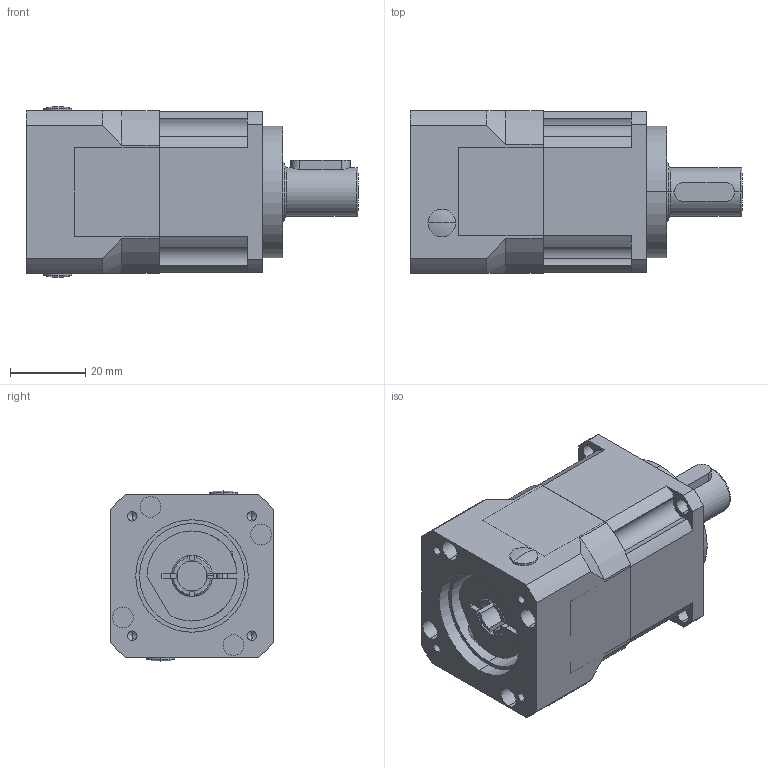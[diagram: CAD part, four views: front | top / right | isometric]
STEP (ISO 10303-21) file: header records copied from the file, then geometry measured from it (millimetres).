
FILE_DESCRIPTION (( 'STEP AP203' ), '1' );
FILE_NAME ('AB042-L1-8-30-45-M3.STEP', '2024-04-30T05:37:05', ( '' ), ( '' ), 'SwSTEP 2.0', 'SolidWorks 2015', '' );
FILE_SCHEMA (( 'CONFIG_CONTROL_DESIGN' ));
Length unit declared in the file: millimetre
Products named in the file (1): AB042-L1-8-30-45-M3
Bounding box: 88.5 x 43.3 x 45.6 mm (x, y, z)
Volume: 145914.5 mm3; surface area: 36317.2 mm2
Topology: 11 solids, 11 shells, 430 faces, 1076 edges, 680 vertices
Faces by surface type: plane 172, cylinder 142, cone 72, torus 28, bspline 16
Entity records: 13674 total; most frequent: CARTESIAN_POINT 3258, DIRECTION 2217, ORIENTED_EDGE 2124, EDGE_CURVE 1062, AXIS2_PLACEMENT_3D 859, VERTEX_POINT 680, LINE 499, VECTOR 499
